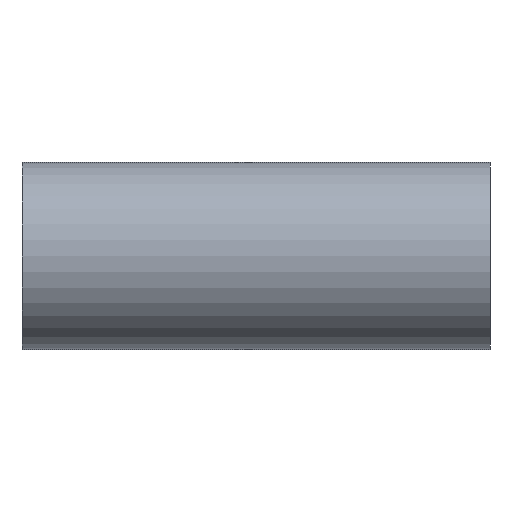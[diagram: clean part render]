
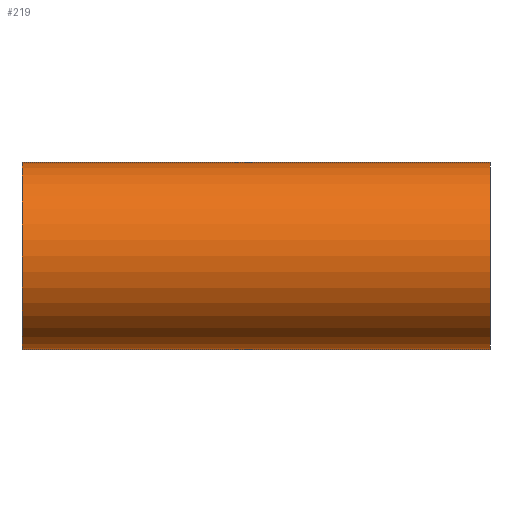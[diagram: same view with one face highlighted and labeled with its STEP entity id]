
A CAD part, front view. The second image highlights one B-rep face of the part: STEP entity #219.
In plain terms, the highlighted cylindrical face has radius 31.75 mm (diameter 63.5 mm), a partial arc.
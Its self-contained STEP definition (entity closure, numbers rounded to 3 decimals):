
#1 = LINE ( 'NONE', #281, #761 ) ;
#6 = CARTESIAN_POINT ( 'NONE',  ( -79.4, 0., -31.75 ) ) ;
#27 = ORIENTED_EDGE ( 'NONE', *, *, #925, .T. ) ;
#66 = VECTOR ( 'NONE', #459, 1000. ) ;
#68 = LINE ( 'NONE', #509, #66 ) ;
#132 = VERTEX_POINT ( 'NONE', #168 ) ;
#137 = CIRCLE ( 'NONE', #725, 31.75 ) ;
#168 = CARTESIAN_POINT ( 'NONE',  ( 79.4, 0., 31.75 ) ) ;
#199 = CYLINDRICAL_SURFACE ( 'NONE', #804, 31.75 ) ;
#219 = ADVANCED_FACE ( 'NONE', ( #246 ), #199, .T. ) ;
#246 = FACE_OUTER_BOUND ( 'NONE', #630, .T. ) ;
#278 = DIRECTION ( 'NONE',  ( 1., 0., 0. ) ) ;
#279 = EDGE_CURVE ( 'NONE', #961, #737, #137, .T. ) ;
#281 = CARTESIAN_POINT ( 'NONE',  ( -79.4, 0., 31.75 ) ) ;
#299 = AXIS2_PLACEMENT_3D ( 'NONE', #789, #782, #778 ) ;
#328 = EDGE_CURVE ( 'NONE', #737, #978, #68, .T. ) ;
#429 = EDGE_CURVE ( 'NONE', #961, #132, #1, .T. ) ;
#459 = DIRECTION ( 'NONE',  ( 1., 0., 0. ) ) ;
#503 = DIRECTION ( 'NONE',  ( 0., 0., -1. ) ) ;
#509 = CARTESIAN_POINT ( 'NONE',  ( -79.4, 0., -31.75 ) ) ;
#630 = EDGE_LOOP ( 'NONE', ( #807, #1041, #843, #27 ) ) ;
#654 = DIRECTION ( 'NONE',  ( 0., 0., -1. ) ) ;
#656 = DIRECTION ( 'NONE',  ( 1., 0., 0. ) ) ;
#660 = CARTESIAN_POINT ( 'NONE',  ( -79.4, 0., 0. ) ) ;
#719 = CARTESIAN_POINT ( 'NONE',  ( -79.4, 0., 0. ) ) ;
#725 = AXIS2_PLACEMENT_3D ( 'NONE', #660, #656, #654 ) ;
#737 = VERTEX_POINT ( 'NONE', #6 ) ;
#761 = VECTOR ( 'NONE', #278, 1000. ) ;
#778 = DIRECTION ( 'NONE',  ( 0., 0., -1. ) ) ;
#782 = DIRECTION ( 'NONE',  ( -1., 0., 0. ) ) ;
#789 = CARTESIAN_POINT ( 'NONE',  ( 79.4, 0., 0. ) ) ;
#791 = DIRECTION ( 'NONE',  ( 1., 0., 0. ) ) ;
#799 = CARTESIAN_POINT ( 'NONE',  ( -79.4, 0., 31.75 ) ) ;
#801 = CIRCLE ( 'NONE', #299, 31.75 ) ;
#804 = AXIS2_PLACEMENT_3D ( 'NONE', #719, #791, #503 ) ;
#807 = ORIENTED_EDGE ( 'NONE', *, *, #429, .F. ) ;
#813 = CARTESIAN_POINT ( 'NONE',  ( 79.4, 0., -31.75 ) ) ;
#843 = ORIENTED_EDGE ( 'NONE', *, *, #328, .T. ) ;
#925 = EDGE_CURVE ( 'NONE', #978, #132, #801, .T. ) ;
#961 = VERTEX_POINT ( 'NONE', #799 ) ;
#978 = VERTEX_POINT ( 'NONE', #813 ) ;
#1041 = ORIENTED_EDGE ( 'NONE', *, *, #279, .T. ) ;
